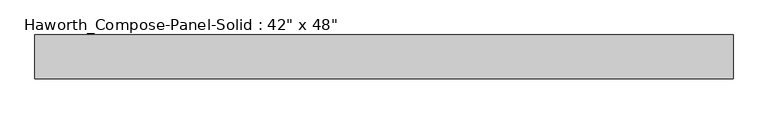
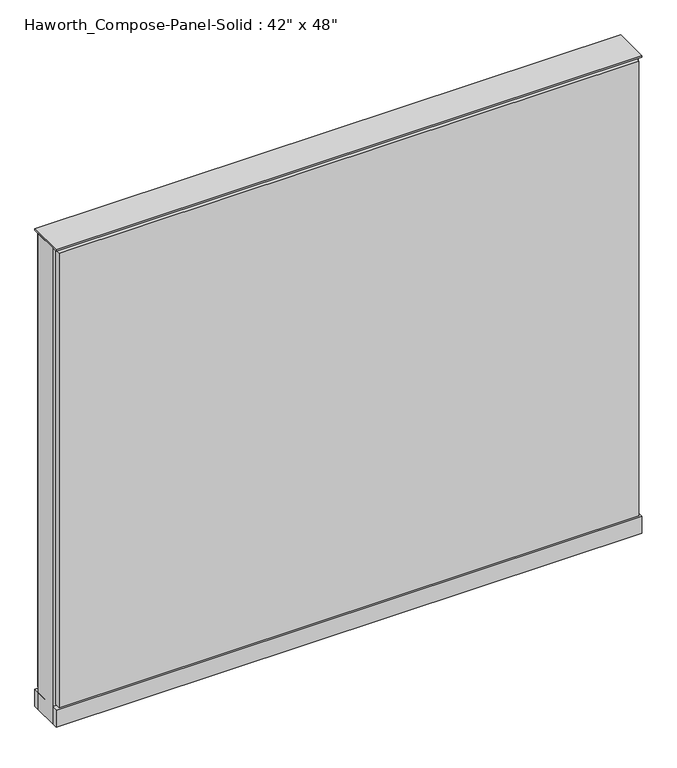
"""IFC4 building model written with IfcOpenShell, lengths in millimetres: furniture geometry."""

from ifc_helpers import new_model, si_unit, point, frame, frame_2d, origin, origin_with_axes, place, context, project, spatial, polyline, circle_curve, trimmed, segment, composite_curve, outline, extrude, source, transform, mapped, element, save


def furniture_8154873b(model_context):
    return source(origin(), model_context, "Body", "SweptSolid", [
        extrude(outline(composite_curve([segment(trimmed(circle_curve(frame_2d((-530.9597098, 0.0)), 12.7), [point((-543.6597098, 0.0))], [point((-518.2597098, 0.0))], False, "CARTESIAN"), True, "CONTINUOUS"), segment(trimmed(circle_curve(frame_2d((-530.9597098, 0.0)), 12.7), [point((-518.2597098, 0.0))], [point((-543.6597098, 0.0))], False, "CARTESIAN"), True, "CONTINUOUS")], self_intersect=False)), origin_with_axes(), (0.0, 0.0, 1.0), 12.7),
        extrude(outline(composite_curve([segment(trimmed(circle_curve(frame_2d((535.8402902, 0.0)), 12.7), [point((523.1402902, 0.0))], [point((548.5402902, 0.0))], False, "CARTESIAN"), True, "CONTINUOUS"), segment(trimmed(circle_curve(frame_2d((535.8402902, 0.0)), 12.7), [point((548.5402902, 0.0))], [point((523.1402902, 0.0))], False, "CARTESIAN"), True, "CONTINUOUS")], self_intersect=False)), origin_with_axes(), (0.0, 0.0, 1.0), 12.7),
        extrude(outline(polyline([(605.6902902, -38.1), (-600.8097098, -38.1), (-600.8097098, -25.4), (605.6902902, -25.4), (605.6902902, -38.1)])), frame((0.0, 0.0, 53.975), z_axis=(0.0, 0.0, 1.0), x_axis=(1.0, 0.0, 0.0)), (0.0, 0.0, 1.0), 1000.125),
        extrude(outline(polyline([(605.6902902, 38.1), (605.6902902, 25.4), (-600.8097098, 25.4), (-600.8097098, 38.1), (605.6902902, 38.1)])), frame((0.0, 0.0, 53.975), z_axis=(0.0, 0.0, 1.0), x_axis=(1.0, 0.0, 0.0)), (0.0, 0.0, 1.0), 1000.125),
        extrude(outline(polyline([(612.0402902, -25.4), (-607.1597098, -25.4), (-607.1597098, 25.4), (612.0402902, 25.4), (612.0402902, -25.4)])), frame((0.0, 0.0, 12.7), z_axis=(0.0, 0.0, 1.0), x_axis=(1.0, 0.0, 0.0)), (0.0, 0.0, 1.0), 1047.75),
        extrude(outline(polyline([(-607.1597098, 38.1), (612.0402902, 38.1), (612.0402902, -38.1), (-607.1597098, -38.1), (-607.1597098, 38.1)])), frame((0.0, 0.0, 12.7), z_axis=(0.0, 0.0, 1.0), x_axis=(1.0, 0.0, 0.0)), (0.0, 0.0, 1.0), 38.1),
        extrude(outline(polyline([(-607.1597098, 38.1), (612.0402902, 38.1), (612.0402902, -38.1), (-607.1597098, -38.1), (-607.1597098, 38.1)])), frame((0.0, 0.0, 1060.45), z_axis=(0.0, 0.0, 1.0), x_axis=(1.0, 0.0, 0.0)), (0.0, 0.0, 1.0), 3.175),
    ])


if __name__ == "__main__":
    model = new_model("IFC4")
    model_context = context("Model", 3, world=origin())
    ifc_project = project(units=[si_unit("LENGTHUNIT", "METRE", prefix="MILLI")], contexts=[model_context])
    site = spatial("IfcSite", under=ifc_project)
    building = spatial("IfcBuilding", under=site)
    placement = place(None, origin())
    furniture_shape = furniture_8154873b(model_context)
    element("IfcFurniture", 1, ObjectType="Haworth_Compose-Panel-Solid : 42\" x 48\"", at=placement, inside=building, context=model_context, shape_type="MappedRepresentation", body=[
        mapped(furniture_shape, transform((0.0, 0.0, 0.0), x_axis=(1.0, 0.0, 0.0), y_axis=(0.0, 1.0, 0.0), z_axis=(0.0, 0.0, 1.0))),
    ])
    save(model, "model.ifc")
